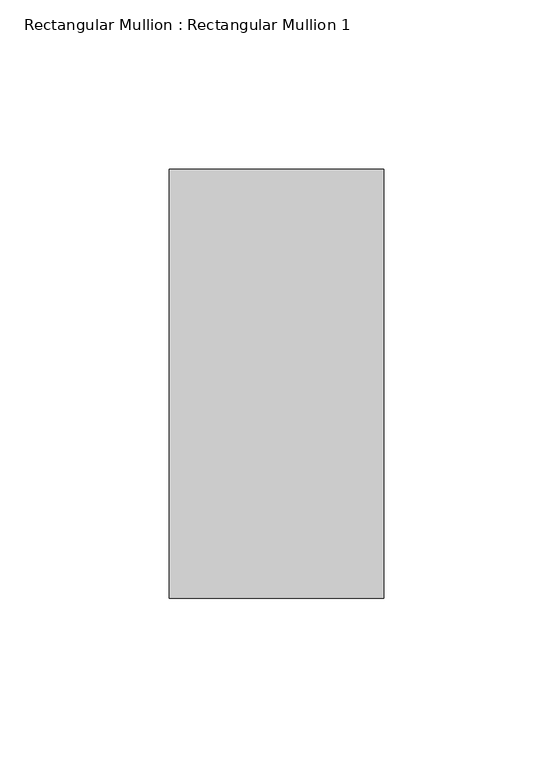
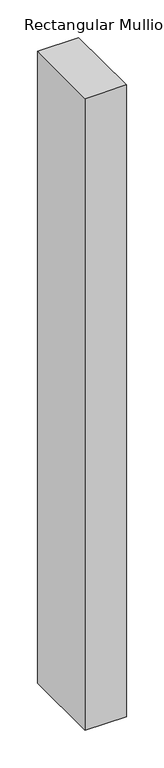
"""IFC4 building model written with IfcOpenShell, lengths in millimetres: member geometry, Rectangular Mullion : Rectangular Mullion 1."""

from ifc_helpers import new_model, si_unit, frame, origin, place, context, project, spatial, polyline, outline, extrude, source, transform, mapped, element, save


def rectangular_mullion_rectangular_mullion_1_b7170ab1(model_context):
    return source(origin(), model_context, "Body", "SweptSolid", [
        extrude(outline(polyline([(31.75, 63.5), (31.75, -63.5), (-31.75, -63.5), (-31.75, 63.5), (31.75, 63.5)])), frame((0.0, 0.0, -1026.16), z_axis=(0.0, 0.0, 1.0), x_axis=(1.0, 0.0, 0.0)), (0.0, 0.0, 1.0), 1026.16),
    ])


if __name__ == "__main__":
    model = new_model("IFC4")
    model_context = context("Model", 3, world=origin())
    ifc_project = project(units=[si_unit("LENGTHUNIT", "METRE", prefix="MILLI")], contexts=[model_context])
    site = spatial("IfcSite", under=ifc_project)
    building = spatial("IfcBuilding", under=site)
    placement = place(None, origin())
    rectangular_mullion_rectangular_mullion_1_shape = rectangular_mullion_rectangular_mullion_1_b7170ab1(model_context)
    element("IfcMember", 1, ObjectType="Rectangular Mullion : Rectangular Mullion 1", at=placement, inside=building, context=model_context, shape_type="MappedRepresentation", body=[
        mapped(rectangular_mullion_rectangular_mullion_1_shape, transform((0.0, 0.0, 0.0), x_axis=(1.0, 0.0, 0.0), y_axis=(0.0, 1.0, 0.0), z_axis=(0.0, 0.0, 1.0))),
    ])
    save(model, "model.ifc")
